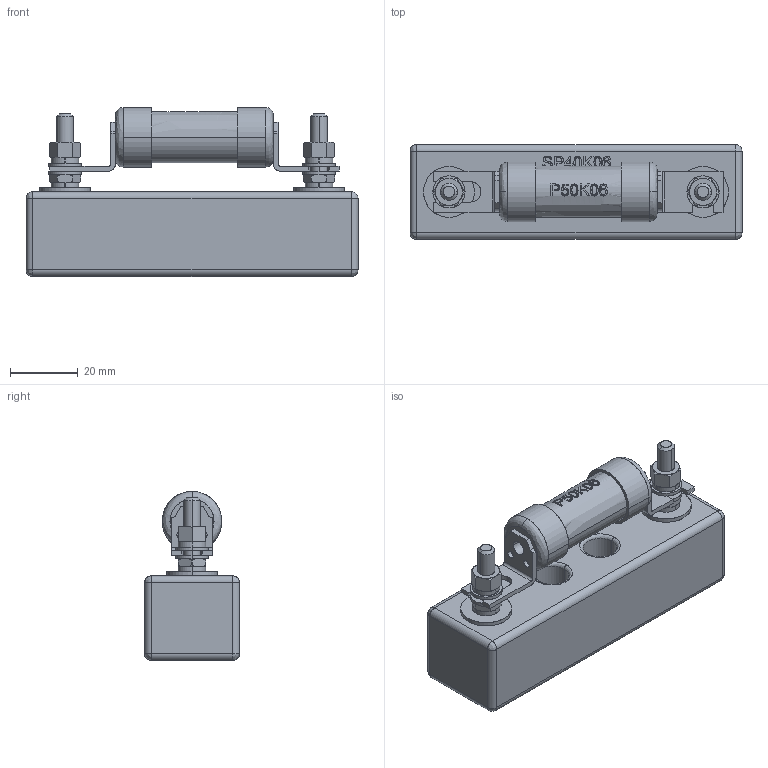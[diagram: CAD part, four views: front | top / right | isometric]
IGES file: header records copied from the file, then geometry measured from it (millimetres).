
Start section: SolidWorks IGES file using analytic representation for surfaces
Global section: file name: U:\14_RD\05_Technical_office\04_Office\Hrdinova\3D modely - IGES\Varius - Ostatní\SP40K06__P50K06.IGS; native system: SolidWorks 2011; preprocessor: SolidWorks 2011; author: adhrja3; date: 170620.141421; units: millimetre
Bounding box: 98 x 28 x 49.9 mm (x, y, z)
Surface area: 25702 mm2 (no closed solid volume)
Topology: 0 solids, 0 shells, 634 faces, 9172 edges, 9164 vertices
Faces by surface type: bspline 394, revolution 240
